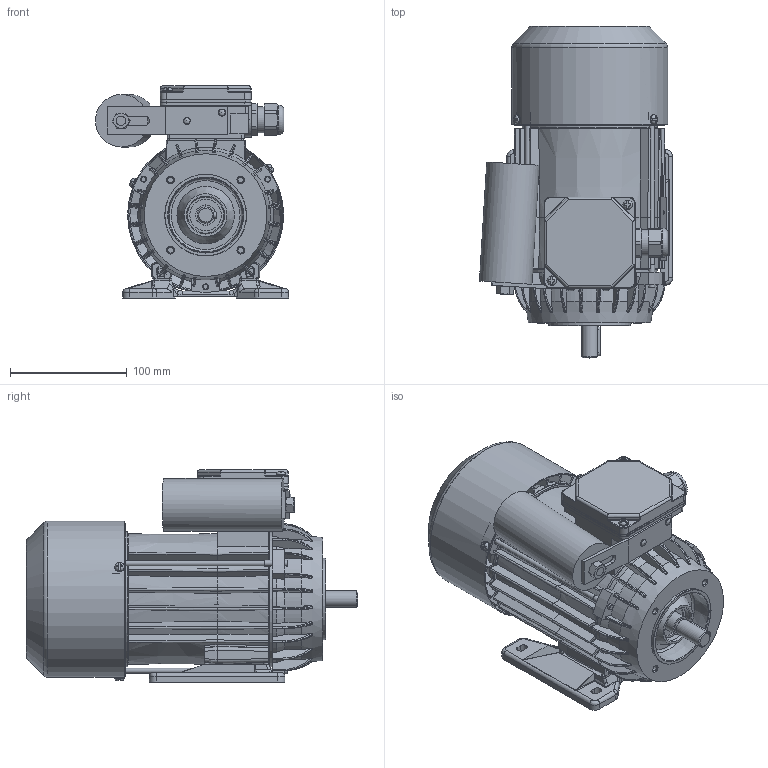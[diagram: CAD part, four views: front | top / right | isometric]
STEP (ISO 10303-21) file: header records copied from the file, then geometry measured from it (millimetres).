
FILE_DESCRIPTION(/* description */ ('Unknown'),/* implementation_level */ '2;1');
FILE_NAME(/* name */ '3SSIEL71-4B2',/* time_stamp */ '2024-06-18T13:14:31+02:00',/* author */ ('Unknown'),/* organization */ ('Unknown'),/* preprocessor_version */ 'ST-DEVELOPER v16.7',/* originating_system */ 'Solid Edge',/* authorisation */ 'Unknown');
FILE_SCHEMA (('AUTOMOTIVE_DESIGN { 1 0 10303 214 3 1 1 }','AUTOMOTIVE_DESIGN {1 0 10303 214 3 1 1}'));
Products named in the file (1): Czêœæ24
Bounding box: 165.27 x 283.98 x 181.5 mm (x, y, z)
Volume: 939031.6 mm3; surface area: 484300.6 mm2
Topology: 2 solids, 2 shells, 2904 faces, 7931 edges, 5043 vertices
Faces by surface type: plane 1175, cylinder 799, bspline 455, torus 230, cone 217, sphere 28
Full cylindrical faces by diameter (mm): 2 x2, 2.4 x2, 3 x1, 3.7 x4, 3.8 x4, 4 x4, 4.3 x2, 4.4 x3, 4.5 x2, 4.8 x2, 4.917 x4, 5 x8, 5.1 x3, 5.5 x3, 5.8 x4, 6 x2, 6.5 x1, 7 x1, 8 x7, 13.599 x1, 13.999 x1, 15.898 x1, 16.098 x1, 16.498 x1, 16.998 x2, 17.4 x2, 21.998 x2, 22.3 x1, 22.498 x1, 22.648 x1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
Entity records: 121636 total; most frequent: CARTESIAN_POINT 32929, ORIENTED_EDGE 15064, DIRECTION 13093, EDGE_CURVE 7532, AXIS2_PLACEMENT_3D 4970, VERTEX_POINT 4904, EDGE_LOOP 3364, FACE_BOUND 3364
